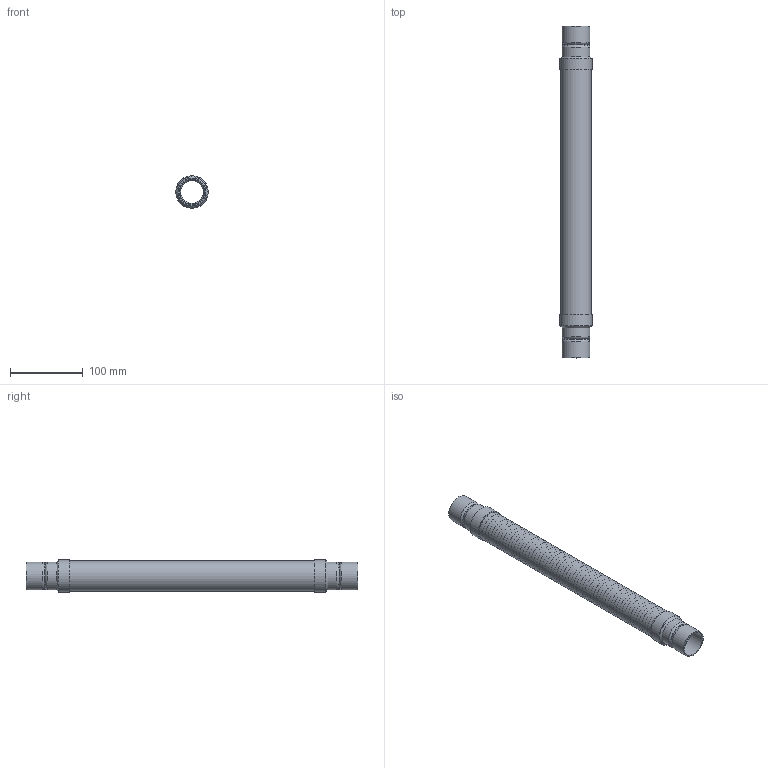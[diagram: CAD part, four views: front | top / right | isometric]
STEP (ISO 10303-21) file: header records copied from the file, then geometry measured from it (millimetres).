
FILE_DESCRIPTION((''),'2;1');
FILE_NAME('C:\2012_Work\Designs\CPSB\CPSB-1.25x18\CPSB-1.25x18.stp','2013-08-26T16:17:18',('KShiels'),(''),'Autodesk Inventor 2012','Autodesk Inventor 2012','');
FILE_SCHEMA(('AUTOMOTIVE_DESIGN { 1 0 10303 214 1 1 1 1 }'));
Length unit declared in the file: inch
Products named in the file (6): CPSB-1; CPSB-1_Welds; A-32706_1
Assembly tree (7 placements, depth 2):
  CPSB-1
    CPSB-1_Welds
    A-32706_1
    A-32706_1
    A-32706_1  x2
    A-32706_1  x2
Bounding box: 44.68 x 457.2 x 44.68 mm (x, y, z)
Volume: 66590.6 mm3; surface area: 306453.2 mm2
Topology: 8 solids, 8 shells, 574 faces, 878 edges, 582 vertices
Faces by surface type: plane 278, torus 278, cylinder 16, cone 2
Full cylindrical faces by diameter (mm): 35.103 x4, 38.405 x6, 40.894 x1, 41.504 x3, 44.679 x2
Entity records: 11442 total; most frequent: DIRECTION 2266, CARTESIAN_POINT 1695, AXIS2_PLACEMENT_3D 1133, ORIENTED_EDGE 1124, EDGE_LOOP 1116, VERTEX_POINT 562, CIRCLE 562, EDGE_CURVE 562
